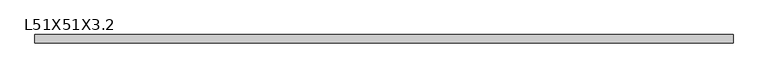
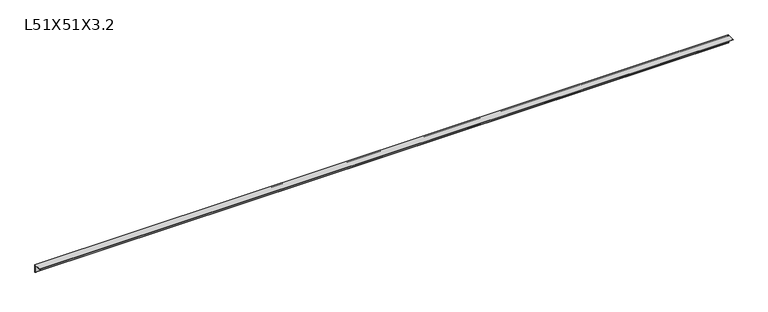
"""IFC4 building model written with IfcOpenShell, lengths in millimetres: beam geometry, M_L-Angle : L51X51X3.2."""

from ifc_helpers import new_model, si_unit, point, frame, frame_2d, origin, place, context, project, spatial, polyline, circle_curve, trimmed, segment, composite_curve, outline, extrude, source, transform, mapped, element, save


def l51x51x3_2_2fe3ea8e(model_context):
    return source(origin(), model_context, "Body", "SweptSolid", [
        extrude(outline(composite_curve([segment(polyline([(13.6, 13.6), (13.6, -37.2)]), True, "CONTINUOUS"), segment(trimmed(circle_curve(frame_2d((13.6, -34.0)), 3.2), [point((13.6, -37.2))], [point((10.4, -34.0))], False, "CARTESIAN"), True, "CONTINUOUS"), segment(polyline([(10.4, -34.0), (10.4, 7.2)]), True, "CONTINUOUS"), segment(trimmed(circle_curve(frame_2d((7.2, 7.2)), 3.2), [point((10.4, 7.2))], [point((7.2, 10.4))], True, "CARTESIAN"), True, "CONTINUOUS"), segment(polyline([(7.2, 10.4), (-34.0, 10.4)]), True, "CONTINUOUS"), segment(trimmed(circle_curve(frame_2d((-34.0, 13.6)), 3.2), [point((-34.0, 10.4))], [point((-37.2, 13.6))], False, "CARTESIAN"), True, "CONTINUOUS"), segment(polyline([(-37.2, 13.6), (13.6, 13.6)]), True, "CONTINUOUS")], self_intersect=False)), frame((-2166.2943678, 0.0, 0.0), z_axis=(1.0, 0.0, 0.0), x_axis=(0.0, 1.0, 0.0)), (0.0, 0.0, 1.0), 4332.5887355),
    ])


if __name__ == "__main__":
    model = new_model("IFC4")
    model_context = context("Model", 3, world=origin())
    ifc_project = project(units=[si_unit("LENGTHUNIT", "METRE", prefix="MILLI")], contexts=[model_context])
    site = spatial("IfcSite", under=ifc_project)
    building = spatial("IfcBuilding", under=site)
    placement = place(None, origin())
    l51x51x3_2_shape = l51x51x3_2_2fe3ea8e(model_context)
    element("IfcBeam", 1, ObjectType="M_L-Angle : L51X51X3.2", at=placement, inside=building, context=model_context, shape_type="MappedRepresentation", body=[
        mapped(l51x51x3_2_shape, transform((0.0, 0.0, 0.0), x_axis=(1.0, 0.0, 0.0), y_axis=(0.0, 1.0, 0.0), z_axis=(0.0, 0.0, 1.0))),
    ])
    save(model, "model.ifc")
